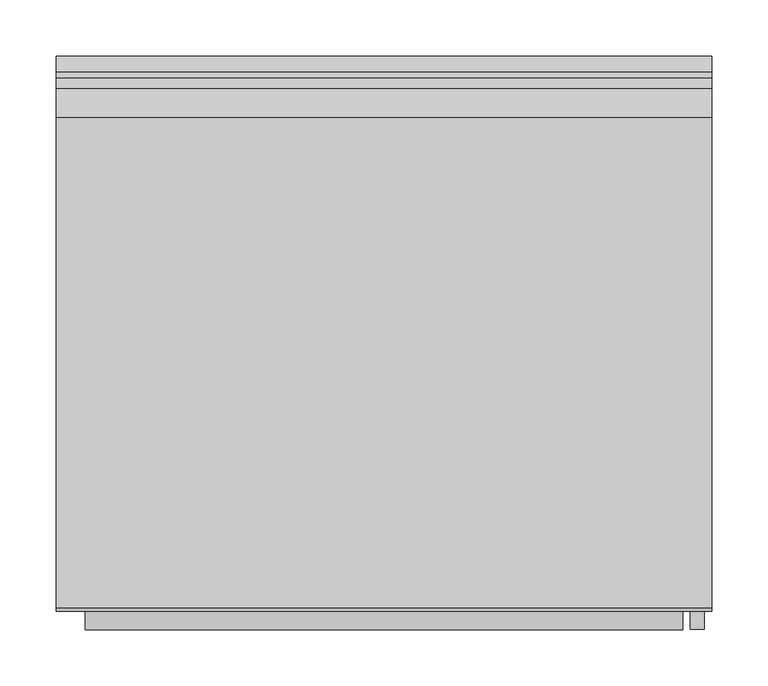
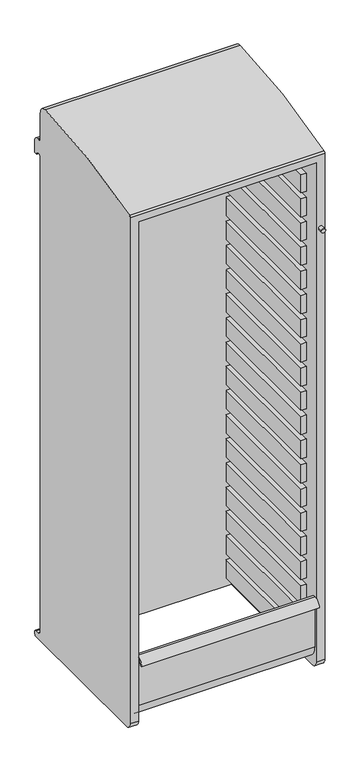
"""IFC4 building model written with IfcOpenShell, lengths in millimetres: furniture geometry."""

from ifc_helpers import new_model, si_unit, point, frame, frame_2d, origin, place, context, project, spatial, polyline, circle_curve, trimmed, segment, composite_curve, outline, extrude, source, transform, mapped, element, save
from ifc_brep_helpers import plane_surface, cylinder_surface, revolved_surface, advanced_brep


def furniture_ac9ddba1(model_context):
    return source(origin(), model_context, "Body", "SolidModel", [
        extrude(outline(polyline([(-249.2375, -195.2625), (-265.1125, -195.2625), (-265.1125, 192.0875), (-249.2375, 192.0875), (-249.2375, -195.2625)])), frame((0.0, 0.0, 552.45), z_axis=(0.0, 0.0, 1.0), x_axis=(1.0, 0.0, 0.0)), (0.0, 0.0, 1.0), 57.15),
        extrude(outline(polyline([(265.1125, -195.2625), (249.2375, -195.2625), (249.2375, 192.0875), (265.1125, 192.0875), (265.1125, -195.2625)])), frame((0.0, 0.0, 552.45), z_axis=(0.0, 0.0, 1.0), x_axis=(1.0, 0.0, 0.0)), (0.0, 0.0, 1.0), 57.15),
        extrude(outline(polyline([(-249.2375, -195.2625), (-265.1125, -195.2625), (-265.1125, 192.0875), (-249.2375, 192.0875), (-249.2375, -195.2625)])), frame((0.0, 0.0, 476.25), z_axis=(0.0, 0.0, 1.0), x_axis=(1.0, 0.0, 0.0)), (0.0, 0.0, 1.0), 57.15),
        extrude(outline(polyline([(265.1125, -195.2625), (249.2375, -195.2625), (249.2375, 192.0875), (265.1125, 192.0875), (265.1125, -195.2625)])), frame((0.0, 0.0, 476.25), z_axis=(0.0, 0.0, 1.0), x_axis=(1.0, 0.0, 0.0)), (0.0, 0.0, 1.0), 57.15),
        extrude(outline(polyline([(-249.2375, -195.2625), (-265.1125, -195.2625), (-265.1125, 192.0875), (-249.2375, 192.0875), (-249.2375, -195.2625)])), frame((0.0, 0.0, 400.05), z_axis=(0.0, 0.0, 1.0), x_axis=(1.0, 0.0, 0.0)), (0.0, 0.0, 1.0), 57.15),
        extrude(outline(polyline([(265.1125, -195.2625), (249.2375, -195.2625), (249.2375, 192.0875), (265.1125, 192.0875), (265.1125, -195.2625)])), frame((0.0, 0.0, 400.05), z_axis=(0.0, 0.0, 1.0), x_axis=(1.0, 0.0, 0.0)), (0.0, 0.0, 1.0), 57.15),
        extrude(outline(polyline([(-249.2375, -195.2625), (-265.1125, -195.2625), (-265.1125, 192.0875), (-249.2375, 192.0875), (-249.2375, -195.2625)])), frame((0.0, 0.0, 323.85), z_axis=(0.0, 0.0, 1.0), x_axis=(1.0, 0.0, 0.0)), (0.0, 0.0, 1.0), 57.15),
        extrude(outline(polyline([(265.1125, -195.2625), (249.2375, -195.2625), (249.2375, 192.0875), (265.1125, 192.0875), (265.1125, -195.2625)])), frame((0.0, 0.0, 323.85), z_axis=(0.0, 0.0, 1.0), x_axis=(1.0, 0.0, 0.0)), (0.0, 0.0, 1.0), 57.15),
        extrude(outline(polyline([(-249.2375, -195.2625), (-265.1125, -195.2625), (-265.1125, 192.0875), (-249.2375, 192.0875), (-249.2375, -195.2625)])), frame((0.0, 0.0, 857.25), z_axis=(0.0, 0.0, 1.0), x_axis=(1.0, 0.0, 0.0)), (0.0, 0.0, 1.0), 57.15),
        extrude(outline(polyline([(265.1125, -195.2625), (249.2375, -195.2625), (249.2375, 192.0875), (265.1125, 192.0875), (265.1125, -195.2625)])), frame((0.0, 0.0, 857.25), z_axis=(0.0, 0.0, 1.0), x_axis=(1.0, 0.0, 0.0)), (0.0, 0.0, 1.0), 57.15),
        extrude(outline(polyline([(-249.2375, -195.2625), (-265.1125, -195.2625), (-265.1125, 192.0875), (-249.2375, 192.0875), (-249.2375, -195.2625)])), frame((0.0, 0.0, 781.05), z_axis=(0.0, 0.0, 1.0), x_axis=(1.0, 0.0, 0.0)), (0.0, 0.0, 1.0), 57.15),
        extrude(outline(polyline([(265.1125, -195.2625), (249.2375, -195.2625), (249.2375, 192.0875), (265.1125, 192.0875), (265.1125, -195.2625)])), frame((0.0, 0.0, 781.05), z_axis=(0.0, 0.0, 1.0), x_axis=(1.0, 0.0, 0.0)), (0.0, 0.0, 1.0), 57.15),
        extrude(outline(polyline([(-249.2375, -195.2625), (-265.1125, -195.2625), (-265.1125, 192.0875), (-249.2375, 192.0875), (-249.2375, -195.2625)])), frame((0.0, 0.0, 704.85), z_axis=(0.0, 0.0, 1.0), x_axis=(1.0, 0.0, 0.0)), (0.0, 0.0, 1.0), 57.15),
        extrude(outline(polyline([(265.1125, -195.2625), (249.2375, -195.2625), (249.2375, 192.0875), (265.1125, 192.0875), (265.1125, -195.2625)])), frame((0.0, 0.0, 704.85), z_axis=(0.0, 0.0, 1.0), x_axis=(1.0, 0.0, 0.0)), (0.0, 0.0, 1.0), 57.15),
        extrude(outline(polyline([(-249.2375, -195.2625), (-265.1125, -195.2625), (-265.1125, 192.0875), (-249.2375, 192.0875), (-249.2375, -195.2625)])), frame((0.0, 0.0, 628.65), z_axis=(0.0, 0.0, 1.0), x_axis=(1.0, 0.0, 0.0)), (0.0, 0.0, 1.0), 57.15),
        extrude(outline(polyline([(265.1125, -195.2625), (249.2375, -195.2625), (249.2375, 192.0875), (265.1125, 192.0875), (265.1125, -195.2625)])), frame((0.0, 0.0, 628.65), z_axis=(0.0, 0.0, 1.0), x_axis=(1.0, 0.0, 0.0)), (0.0, 0.0, 1.0), 57.15),
        extrude(outline(polyline([(-249.2375, -195.2625), (-265.1125, -195.2625), (-265.1125, 192.0875), (-249.2375, 192.0875), (-249.2375, -195.2625)])), frame((0.0, 0.0, 1162.05), z_axis=(0.0, 0.0, 1.0), x_axis=(1.0, 0.0, 0.0)), (0.0, 0.0, 1.0), 57.15),
        extrude(outline(polyline([(265.1125, -195.2625), (249.2375, -195.2625), (249.2375, 192.0875), (265.1125, 192.0875), (265.1125, -195.2625)])), frame((0.0, 0.0, 1162.05), z_axis=(0.0, 0.0, 1.0), x_axis=(1.0, 0.0, 0.0)), (0.0, 0.0, 1.0), 57.15),
        extrude(outline(polyline([(-249.2375, -195.2625), (-265.1125, -195.2625), (-265.1125, 192.0875), (-249.2375, 192.0875), (-249.2375, -195.2625)])), frame((0.0, 0.0, 1085.85), z_axis=(0.0, 0.0, 1.0), x_axis=(1.0, 0.0, 0.0)), (0.0, 0.0, 1.0), 57.15),
        extrude(outline(polyline([(265.1125, -195.2625), (249.2375, -195.2625), (249.2375, 192.0875), (265.1125, 192.0875), (265.1125, -195.2625)])), frame((0.0, 0.0, 1085.85), z_axis=(0.0, 0.0, 1.0), x_axis=(1.0, 0.0, 0.0)), (0.0, 0.0, 1.0), 57.15),
        extrude(outline(polyline([(-249.2375, -195.2625), (-265.1125, -195.2625), (-265.1125, 192.0875), (-249.2375, 192.0875), (-249.2375, -195.2625)])), frame((0.0, 0.0, 1009.65), z_axis=(0.0, 0.0, 1.0), x_axis=(1.0, 0.0, 0.0)), (0.0, 0.0, 1.0), 57.15),
        extrude(outline(polyline([(265.1125, -195.2625), (249.2375, -195.2625), (249.2375, 192.0875), (265.1125, 192.0875), (265.1125, -195.2625)])), frame((0.0, 0.0, 1009.65), z_axis=(0.0, 0.0, 1.0), x_axis=(1.0, 0.0, 0.0)), (0.0, 0.0, 1.0), 57.15),
        extrude(outline(polyline([(-249.2375, -195.2625), (-265.1125, -195.2625), (-265.1125, 192.0875), (-249.2375, 192.0875), (-249.2375, -195.2625)])), frame((0.0, 0.0, 933.45), z_axis=(0.0, 0.0, 1.0), x_axis=(1.0, 0.0, 0.0)), (0.0, 0.0, 1.0), 57.15),
        extrude(outline(polyline([(265.1125, -195.2625), (249.2375, -195.2625), (249.2375, 192.0875), (265.1125, 192.0875), (265.1125, -195.2625)])), frame((0.0, 0.0, 933.45), z_axis=(0.0, 0.0, 1.0), x_axis=(1.0, 0.0, 0.0)), (0.0, 0.0, 1.0), 57.15),
        extrude(outline(polyline([(-249.2375, -195.2625), (-265.1125, -195.2625), (-265.1125, 192.0875), (-249.2375, 192.0875), (-249.2375, -195.2625)])), frame((0.0, 0.0, 1466.85), z_axis=(0.0, 0.0, 1.0), x_axis=(1.0, 0.0, 0.0)), (0.0, 0.0, 1.0), 57.15),
        extrude(outline(polyline([(265.1125, -195.2625), (249.2375, -195.2625), (249.2375, 192.0875), (265.1125, 192.0875), (265.1125, -195.2625)])), frame((0.0, 0.0, 1466.85), z_axis=(0.0, 0.0, 1.0), x_axis=(1.0, 0.0, 0.0)), (0.0, 0.0, 1.0), 57.15),
        extrude(outline(polyline([(-249.2375, -195.2625), (-265.1125, -195.2625), (-265.1125, 192.0875), (-249.2375, 192.0875), (-249.2375, -195.2625)])), frame((0.0, 0.0, 1390.65), z_axis=(0.0, 0.0, 1.0), x_axis=(1.0, 0.0, 0.0)), (0.0, 0.0, 1.0), 57.15),
        extrude(outline(polyline([(265.1125, -195.2625), (249.2375, -195.2625), (249.2375, 192.0875), (265.1125, 192.0875), (265.1125, -195.2625)])), frame((0.0, 0.0, 1390.65), z_axis=(0.0, 0.0, 1.0), x_axis=(1.0, 0.0, 0.0)), (0.0, 0.0, 1.0), 57.15),
        extrude(outline(polyline([(-249.2375, -195.2625), (-265.1125, -195.2625), (-265.1125, 192.0875), (-249.2375, 192.0875), (-249.2375, -195.2625)])), frame((0.0, 0.0, 1314.45), z_axis=(0.0, 0.0, 1.0), x_axis=(1.0, 0.0, 0.0)), (0.0, 0.0, 1.0), 57.15),
        extrude(outline(polyline([(265.1125, -195.2625), (249.2375, -195.2625), (249.2375, 192.0875), (265.1125, 192.0875), (265.1125, -195.2625)])), frame((0.0, 0.0, 1314.45), z_axis=(0.0, 0.0, 1.0), x_axis=(1.0, 0.0, 0.0)), (0.0, 0.0, 1.0), 57.15),
        extrude(outline(polyline([(-249.2375, -195.2625), (-265.1125, -195.2625), (-265.1125, 192.0875), (-249.2375, 192.0875), (-249.2375, -195.2625)])), frame((0.0, 0.0, 1238.25), z_axis=(0.0, 0.0, 1.0), x_axis=(1.0, 0.0, 0.0)), (0.0, 0.0, 1.0), 57.15),
        extrude(outline(polyline([(265.1125, -195.2625), (249.2375, -195.2625), (249.2375, 192.0875), (265.1125, 192.0875), (265.1125, -195.2625)])), frame((0.0, 0.0, 1238.25), z_axis=(0.0, 0.0, 1.0), x_axis=(1.0, 0.0, 0.0)), (0.0, 0.0, 1.0), 57.15),
        extrude(outline(polyline([(-249.2375, -195.2625), (-265.1125, -195.2625), (-265.1125, 192.0875), (-249.2375, 192.0875), (-249.2375, -195.2625)])), frame((0.0, 0.0, 1771.65), z_axis=(0.0, 0.0, 1.0), x_axis=(1.0, 0.0, 0.0)), (0.0, 0.0, 1.0), 57.15),
        extrude(outline(polyline([(265.1125, -195.2625), (249.2375, -195.2625), (249.2375, 192.0875), (265.1125, 192.0875), (265.1125, -195.2625)])), frame((0.0, 0.0, 1771.65), z_axis=(0.0, 0.0, 1.0), x_axis=(1.0, 0.0, 0.0)), (0.0, 0.0, 1.0), 57.15),
        extrude(outline(polyline([(-249.2375, -195.2625), (-265.1125, -195.2625), (-265.1125, 192.0875), (-249.2375, 192.0875), (-249.2375, -195.2625)])), frame((0.0, 0.0, 1695.45), z_axis=(0.0, 0.0, 1.0), x_axis=(1.0, 0.0, 0.0)), (0.0, 0.0, 1.0), 57.15),
        extrude(outline(polyline([(265.1125, -195.2625), (249.2375, -195.2625), (249.2375, 192.0875), (265.1125, 192.0875), (265.1125, -195.2625)])), frame((0.0, 0.0, 1695.45), z_axis=(0.0, 0.0, 1.0), x_axis=(1.0, 0.0, 0.0)), (0.0, 0.0, 1.0), 57.15),
        extrude(outline(polyline([(-249.2375, -195.2625), (-265.1125, -195.2625), (-265.1125, 192.0875), (-249.2375, 192.0875), (-249.2375, -195.2625)])), frame((0.0, 0.0, 1619.25), z_axis=(0.0, 0.0, 1.0), x_axis=(1.0, 0.0, 0.0)), (0.0, 0.0, 1.0), 57.15),
        extrude(outline(polyline([(265.1125, -195.2625), (249.2375, -195.2625), (249.2375, 192.0875), (265.1125, 192.0875), (265.1125, -195.2625)])), frame((0.0, 0.0, 1619.25), z_axis=(0.0, 0.0, 1.0), x_axis=(1.0, 0.0, 0.0)), (0.0, 0.0, 1.0), 57.15),
        extrude(outline(polyline([(-249.2375, -195.2625), (-265.1125, -195.2625), (-265.1125, 192.0875), (-249.2375, 192.0875), (-249.2375, -195.2625)])), frame((0.0, 0.0, 1543.05), z_axis=(0.0, 0.0, 1.0), x_axis=(1.0, 0.0, 0.0)), (0.0, 0.0, 1.0), 57.15),
        extrude(outline(polyline([(265.1125, -195.2625), (249.2375, -195.2625), (249.2375, 192.0875), (265.1125, 192.0875), (265.1125, -195.2625)])), frame((0.0, 0.0, 1543.05), z_axis=(0.0, 0.0, 1.0), x_axis=(1.0, 0.0, 0.0)), (0.0, 0.0, 1.0), 57.15),
        advanced_brep(
        [(290.5125, -246.0625, 317.5), (290.5125, -227.0125, 298.45), (290.5125, 239.7125, 298.45), (290.5125, 246.0625, 304.8), (290.5125, 246.0625, 311.15), (290.5125, 239.7125, 317.5), (290.5125, 228.6, 317.5), (290.5125, 217.4875, 328.6125), (290.5125, 217.4875, 1820.4282764), (290.5125, 236.7359375, 1820.4282764), (290.5125, 246.0625, 1820.4282764), (290.5125, 246.0625, 1858.8967496), (290.5125, 232.4695312, 1872.4897183), (290.5125, 227.1117187, 1872.4897183), (290.5125, 217.4875, 1882.1139371), (290.5125, 217.4875, 1962.15), (290.5125, 192.0875, 1987.55), (290.5125, -242.8127937, 1918.698234), (290.5125, -246.0625, 1913.4436651), (-290.5125, -246.0625, 317.5), (-290.5125, -246.0625, 1913.4436651), (-290.5125, -242.8127937, 1918.698234), (-290.5125, 192.0875, 1987.55), (-290.5125, 217.4875, 1962.15), (-290.5125, 217.4875, 1882.1139371), (-290.5125, 227.1117187, 1872.4897183), (-290.5125, 232.4695312, 1872.4897183), (-290.5125, 246.0625, 1858.8967496), (-290.5125, 246.0625, 1820.4282764), (-290.5125, 236.7359375, 1820.4282764), (-290.5125, 217.4875, 1820.4282764), (-290.5125, 217.4875, 328.6125), (-290.5125, 228.6, 317.5), (-290.5125, 239.7125, 317.5), (-290.5125, 246.0625, 311.15), (-290.5125, 246.0625, 304.8), (-290.5125, 239.7125, 298.45), (-290.5125, -227.0125, 298.45), (265.1125, -246.0625, 317.5), (265.1125, -227.0125, 298.45), (-265.1125, -227.0125, 298.45), (-265.1125, -246.0625, 317.5), (265.1125, 192.0875, 298.45), (-265.1125, 192.0875, 298.45), (-265.1125, -246.0625, 1892.3), (265.1125, -246.0625, 1892.3), (265.1125, 192.0875, 1956.3783426), (-265.1125, 192.0875, 1956.3783426)],
        [
            (0, 1, circle_curve(frame((290.5125, -227.0125, 317.5), z_axis=(1.0, 0.0, 0.0), x_axis=(0.0, 1.0, 0.0)), 19.05)),
            (1, 2),
            (2, 3, circle_curve(frame((290.5125, 239.7125, 304.8), z_axis=(1.0, 0.0, 0.0), x_axis=(0.0, 1.0, 0.0)), 6.35)),
            (3, 4),
            (4, 5, circle_curve(frame((290.5125, 239.7125, 311.15), z_axis=(1.0, 0.0, 0.0), x_axis=(0.0, 1.0, 0.0)), 6.35)),
            (5, 6),
            (6, 7, circle_curve(frame((290.5125, 228.6, 328.6125), z_axis=(-1.0, 0.0, 0.0), x_axis=(0.0, 1.0, 0.0)), 11.1125)),
            (7, 8),
            (8, 9, circle_curve(frame((290.5125, 227.1117187, 1820.4282764), z_axis=(-1.0, 0.0, 0.0), x_axis=(0.0, 1.0, 0.0)), 9.6242188)),
            (9, 10),
            (10, 11),
            (11, 12, circle_curve(frame((290.5125, 232.4695312, 1858.8967496), z_axis=(1.0, 0.0, 0.0), x_axis=(0.0, 1.0, 0.0)), 13.5929687)),
            (12, 13),
            (13, 14, circle_curve(frame((290.5125, 227.1117187, 1882.1139371), z_axis=(-1.0, 0.0, 0.0), x_axis=(0.0, 1.0, 0.0)), 9.6242187)),
            (14, 15),
            (15, 16, circle_curve(frame((290.5125, 192.0875, 1962.15), z_axis=(1.0, 0.0, 0.0), x_axis=(0.0, 1.0, 0.0)), 25.4)),
            (16, 17, circle_curve(frame((290.5125, 219.0245932, 409.4588105), z_axis=(1.0, 0.0, 0.0), x_axis=(0.0, 1.0, 0.0)), 1578.321073)),
            (17, 18, circle_curve(frame((290.5125, -240.1894945, 1913.4436651), z_axis=(1.0, 0.0, 0.0), x_axis=(0.0, 1.0, 0.0)), 5.8730055)),
            (18, 0),
            (19, 20),
            (20, 21, circle_curve(frame((-290.5125, -240.1894945, 1913.4436651), z_axis=(-1.0, 0.0, 0.0), x_axis=(0.0, 1.0, 0.0)), 5.8730055)),
            (21, 22, circle_curve(frame((-290.5125, 219.0245932, 409.4588105), z_axis=(-1.0, 0.0, 0.0), x_axis=(0.0, 1.0, 0.0)), 1578.321073)),
            (22, 23, circle_curve(frame((-290.5125, 192.0875, 1962.15), z_axis=(-1.0, 0.0, 0.0), x_axis=(0.0, 1.0, 0.0)), 25.4)),
            (23, 24),
            (24, 25, circle_curve(frame((-290.5125, 227.1117187, 1882.1139371), z_axis=(1.0, 0.0, 0.0), x_axis=(0.0, 1.0, 0.0)), 9.6242188)),
            (25, 26),
            (26, 27, circle_curve(frame((-290.5125, 232.4695312, 1858.8967496), z_axis=(-1.0, 0.0, 0.0), x_axis=(0.0, 1.0, 0.0)), 13.5929688)),
            (27, 28),
            (28, 29),
            (29, 30, circle_curve(frame((-290.5125, 227.1117187, 1820.4282764), z_axis=(1.0, 0.0, 0.0), x_axis=(0.0, 1.0, 0.0)), 9.6242188)),
            (30, 31),
            (31, 32, circle_curve(frame((-290.5125, 228.6, 328.6125), z_axis=(1.0, 0.0, 0.0), x_axis=(0.0, 1.0, 0.0)), 11.1125)),
            (32, 33),
            (33, 34, circle_curve(frame((-290.5125, 239.7125, 311.15), z_axis=(-1.0, 0.0, 0.0), x_axis=(0.0, 1.0, 0.0)), 6.35)),
            (34, 35),
            (35, 36, circle_curve(frame((-290.5125, 239.7125, 304.8), z_axis=(-1.0, 0.0, 0.0), x_axis=(0.0, 1.0, 0.0)), 6.35)),
            (36, 37),
            (37, 19, circle_curve(frame((-290.5125, -227.0125, 317.5), z_axis=(-1.0, 0.0, 0.0), x_axis=(0.0, 1.0, 0.0)), 19.05)),
            (0, 38),
            (38, 39, circle_curve(frame((265.1125, -227.0125, 317.5), z_axis=(1.0, 0.0, 0.0), x_axis=(0.0, 1.0, 0.0)), 19.05)),
            (39, 1),
            (37, 40),
            (40, 41, circle_curve(frame((-265.1125, -227.0125, 317.5), z_axis=(-1.0, 0.0, 0.0), x_axis=(0.0, 1.0, 0.0)), 19.05)),
            (41, 19),
            (39, 42),
            (42, 43),
            (43, 40),
            (36, 2),
            (35, 3),
            (34, 4),
            (33, 5),
            (32, 6),
            (31, 7),
            (30, 8),
            (29, 9),
            (28, 10),
            (27, 11),
            (26, 12),
            (25, 13),
            (24, 14),
            (23, 15),
            (22, 16),
            (21, 17),
            (20, 18),
            (41, 44),
            (44, 45),
            (45, 38),
            (45, 46),
            (46, 42),
            (43, 47),
            (47, 44),
            (46, 47),
        ],
        [
            plane_surface(frame((290.5125, -207.9625, 317.5), z_axis=(1.0, 0.0, 0.0), x_axis=(0.0, 0.0, 1.0))),
            plane_surface(frame((-290.5125, -207.9625, 317.5), z_axis=(-1.0, 0.0, 0.0), x_axis=(0.0, 0.0, -1.0))),
            cylinder_surface(frame((-290.5125, -227.0125, 317.5), z_axis=(1.0, 0.0, 0.0), x_axis=(0.0, 1.0, 0.0)), 19.05),
            plane_surface(frame((290.5125, -227.0125, 298.45), z_axis=(0.0, 0.0, -1.0), x_axis=(-1.0, 0.0, 0.0))),
            cylinder_surface(frame((-290.5125, 239.7125, 304.8), z_axis=(1.0, 0.0, 0.0), x_axis=(0.0, 1.0, 0.0)), 6.35),
            plane_surface(frame((290.5125, 246.0625, 304.8), z_axis=(0.0, 1.0, 0.0), x_axis=(-1.0, 0.0, 0.0))),
            cylinder_surface(frame((-290.5125, 239.7125, 311.15), z_axis=(1.0, 0.0, 0.0), x_axis=(0.0, 1.0, 0.0)), 6.35),
            plane_surface(frame((290.5125, 239.7125, 317.5), z_axis=(0.0, 0.0, 1.0), x_axis=(-1.0, 0.0, 0.0))),
            revolved_surface(polyline([(-290.5125, 239.7125, 328.6125), (290.5125, 239.7125, 328.6125)]), (-290.5125, 228.6, 328.6125), (-1.0, 0.0, 0.0)),
            plane_surface(frame((290.5125, 217.4875, 328.6125), z_axis=(0.0, 1.0, 0.0), x_axis=(-1.0, 0.0, 0.0))),
            revolved_surface(polyline([(-290.5125, 236.7359375, 1820.4282764), (290.5125, 236.7359375, 1820.4282764)]), (-290.5125, 227.1117187, 1820.4282764), (-1.0, 0.0, 0.0)),
            plane_surface(frame((290.5125, 236.7359375, 1820.4282764), z_axis=(0.0, 0.0, -1.0), x_axis=(-1.0, 0.0, 0.0))),
            plane_surface(frame((290.5125, 246.0625, 1820.4282764), z_axis=(0.0, 1.0, 0.0), x_axis=(-1.0, 0.0, 0.0))),
            cylinder_surface(frame((-290.5125, 232.4695312, 1858.8967496), z_axis=(1.0, 0.0, 0.0), x_axis=(0.0, 1.0, 0.0)), 13.5929687),
            plane_surface(frame((290.5125, 232.4695312, 1872.4897183), z_axis=(0.0, 0.0, 1.0), x_axis=(-1.0, 0.0, 0.0))),
            revolved_surface(polyline([(-290.5125, 236.7359375, 1882.1139371), (290.5125, 236.7359375, 1882.1139371)]), (-290.5125, 227.1117187, 1882.1139371), (-1.0, 0.0, 0.0)),
            plane_surface(frame((290.5125, 217.4875, 1882.1139371), z_axis=(0.0, 1.0, 0.0), x_axis=(-1.0, 0.0, 0.0))),
            cylinder_surface(frame((-290.5125, 192.0875, 1962.15), z_axis=(1.0, 0.0, 0.0), x_axis=(0.0, 1.0, 0.0)), 25.4),
            cylinder_surface(frame((-290.5125, 219.0245932, 409.4588105), z_axis=(1.0, 0.0, 0.0), x_axis=(0.0, 1.0, 0.0)), 1578.321073),
            cylinder_surface(frame((-290.5125, -240.1894945, 1913.4436651), z_axis=(1.0, 0.0, 0.0), x_axis=(0.0, 1.0, 0.0)), 5.8730055),
            plane_surface(frame((290.5125, -246.0625, 1913.4436651), z_axis=(0.0, -1.0, -1.1655566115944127e-12), x_axis=(-1.0, 0.0, 0.0))),
            plane_surface(frame((265.1125, 192.0875, 298.45), z_axis=(-1.0, 0.0, 0.0), x_axis=(0.0, 0.0, 1.0))),
            plane_surface(frame((-265.1125, 192.0875, 298.45), z_axis=(1.0, 0.0, 0.0), x_axis=(0.0, 0.0, -1.0))),
            plane_surface(frame((265.1125, 192.0875, 298.45), z_axis=(0.0, -1.0, 0.0), x_axis=(-1.0, 0.0, 0.0))),
            plane_surface(frame((265.1125, 192.0875, 1956.3783426), z_axis=(0.0, 0.14470815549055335, -0.9894743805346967), x_axis=(-1.0, 0.0, 0.0))),
        ],
        [
            (0, [[1, 2, 3, 4, 5, 6, 7, 8, 9, 10, 11, 12, 13, 14, 15, 16, 17, 18, 19]]),
            (1, [[20, 21, 22, 23, 24, 25, 26, 27, 28, 29, 30, 31, 32, 33, 34, 35, 36, 37, 38]]),
            (2, [[-1, 39, 40, 41]]),
            (2, [[-38, 42, 43, 44]]),
            (3, [[-2, -41, 45, 46, 47, -42, -37, 48]]),
            (4, [[-3, -48, -36, 49]]),
            (5, [[-4, -49, -35, 50]]),
            (6, [[-5, -50, -34, 51]]),
            (7, [[-6, -51, -33, 52]]),
            (8, [[-7, -52, -32, 53]]),
            (9, [[-8, -53, -31, 54]]),
            (10, [[-9, -54, -30, 55]]),
            (11, [[-10, -55, -29, 56]]),
            (12, [[-11, -56, -28, 57]]),
            (13, [[-12, -57, -27, 58]]),
            (14, [[-13, -58, -26, 59]]),
            (15, [[-14, -59, -25, 60]]),
            (16, [[-15, -60, -24, 61]]),
            (17, [[-16, -61, -23, 62]]),
            (18, [[-17, -62, -22, 63]]),
            (19, [[-18, -63, -21, 64]]),
            (20, [[-19, -64, -20, -44, 65, 66, 67, -39]]),
            (21, [[68, 69, -45, -40, -67]]),
            (22, [[70, 71, -65, -43, -47]]),
            (23, [[-69, 72, -70, -46]]),
            (24, [[-68, -66, -71, -72]]),
        ],
    ),
        extrude(outline(composite_curve([segment(trimmed(circle_curve(frame_2d((-195.2625, 361.95)), 38.1), [point((-233.3625, 361.95))], [point((-195.2625, 323.85))], True, "CARTESIAN"), True, "CONTINUOUS"), segment(polyline([(-195.2625, 323.85), (0.0, 323.85), (0.0, 317.5), (-195.2625, 317.5)]), True, "CONTINUOUS"), segment(trimmed(circle_curve(frame_2d((-195.2625, 361.95)), 44.45), [point((-195.2625, 317.5))], [point((-239.7125, 361.95))], False, "CARTESIAN"), True, "CONTINUOUS"), segment(polyline([(-239.7125, 361.95), (-239.7125, 514.35)]), True, "CONTINUOUS"), segment(trimmed(circle_curve(frame_2d((-239.7125, 498.475)), 15.875), [point((-239.7125, 514.35))], [point((-255.5875, 498.475))], True, "CARTESIAN"), True, "CONTINUOUS"), segment(polyline([(-255.5875, 498.475), (-261.9375, 498.475)]), True, "CONTINUOUS"), segment(trimmed(circle_curve(frame_2d((-239.7125, 498.475)), 22.225), [point((-261.9375, 498.475))], [point((-239.7125, 520.7))], False, "CARTESIAN"), True, "CONTINUOUS"), segment(polyline([(-239.7125, 520.7), (-233.3625, 520.7), (-233.3625, 361.95)]), True, "CONTINUOUS")], self_intersect=False)), frame((-265.1125, 0.0, 0.0), z_axis=(1.0, 0.0, 0.0), x_axis=(0.0, 1.0, 0.0)), (0.0, 0.0, 1.0), 530.225),
        extrude(outline(composite_curve([segment(trimmed(circle_curve(frame_2d((1682.75, 277.8125)), 6.35), [point((1682.75, 271.4625))], [point((1682.75, 284.1625))], False, "CARTESIAN"), True, "CONTINUOUS"), segment(trimmed(circle_curve(frame_2d((1682.75, 277.8125)), 6.35), [point((1682.75, 284.1625))], [point((1682.75, 271.4625))], False, "CARTESIAN"), True, "CONTINUOUS")], self_intersect=False)), frame((0.0, -261.9375, 0.0), z_axis=(0.0, 1.0, 0.0), x_axis=(0.0, 0.0, 1.0)), (0.0, 0.0, 1.0), 15.875),
    ])


if __name__ == "__main__":
    model = new_model("IFC4")
    model_context = context("Model", 3, world=origin())
    ifc_project = project(units=[si_unit("LENGTHUNIT", "METRE", prefix="MILLI")], contexts=[model_context])
    site = spatial("IfcSite", under=ifc_project)
    building = spatial("IfcBuilding", under=site)
    placement = place(None, origin())
    furniture_shape = furniture_ac9ddba1(model_context)
    element("IfcFurniture", 1, ObjectType="HermanMiller_CoStruc_CO561_LockerWithTambourDoor : 66\"H x 20\"D x 22\"W Wlock", at=placement, inside=building, context=model_context, shape_type="MappedRepresentation", body=[
        mapped(furniture_shape, transform((0.0, 0.0, 0.0), x_axis=(1.0, 0.0, 0.0), y_axis=(0.0, 1.0, 0.0), z_axis=(0.0, 0.0, 1.0))),
    ])
    save(model, "model.ifc")
